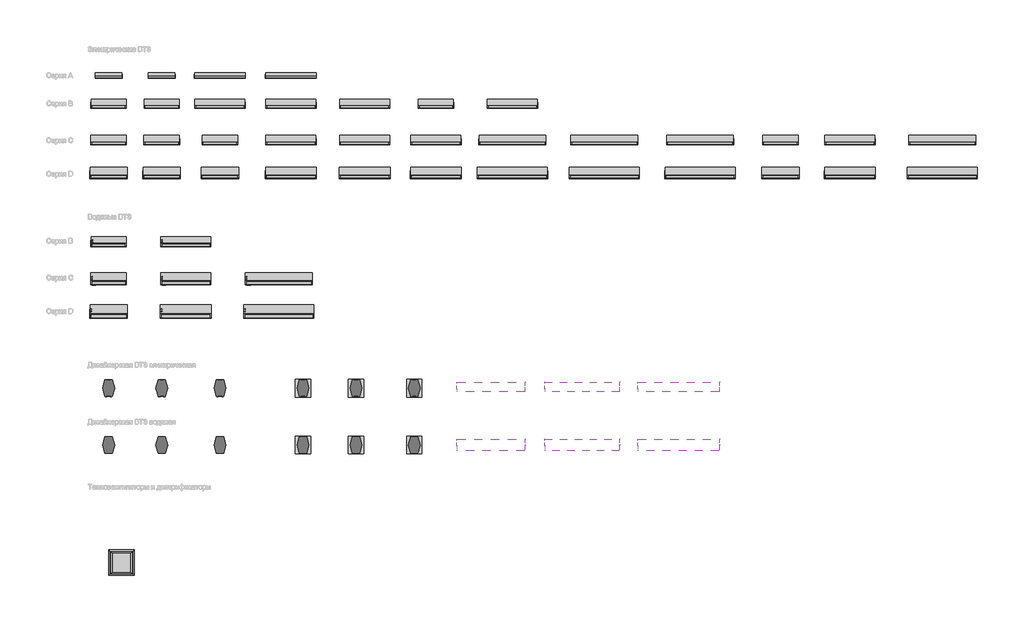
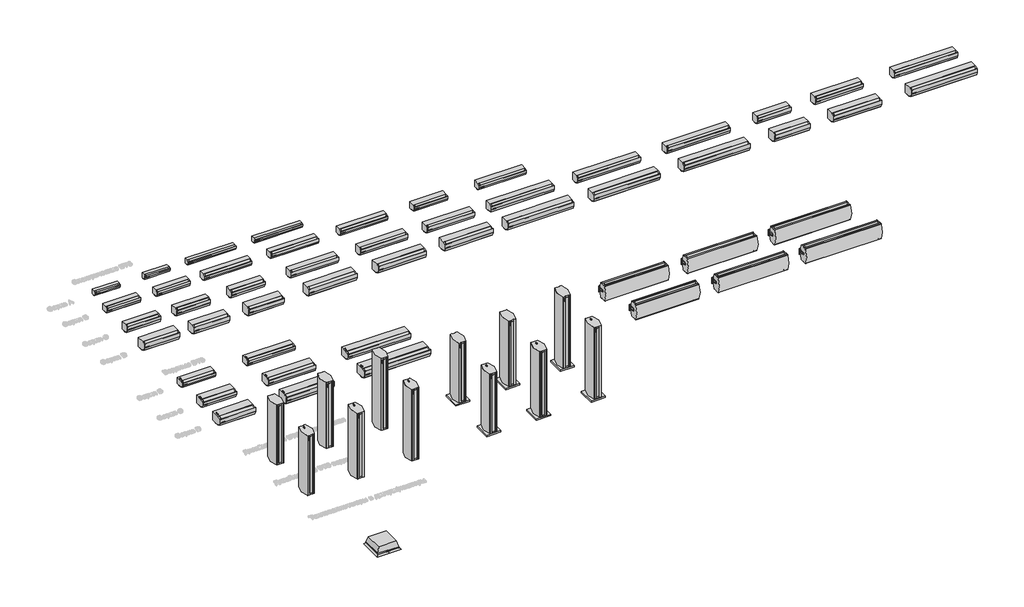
# One storey, part 1 of 6: 62 proxies.
"""IFC4 building model written with IfcOpenShell, lengths in millimetres."""

from ifc_helpers import new_model, si_unit, origin, place, context, project, spatial, transform, mapped, element, save
from components import mechanical_equipment_9118009e, mechanical_equipment_6979c24a, mechanical_equipment_54d49482, mechanical_equipment_cf9eca2f, mechanical_equipment_031cc24c, mechanical_equipment_d82694fb, mechanical_equipment_9d049b99, mechanical_equipment_add983ee, mechanical_equipment_00a1be9c, mechanical_equipment_44363e42, mechanical_equipment_baf8c299, mechanical_equipment_bb79ffea, mechanical_equipment_50f86838, mechanical_equipment_3402af0e, mechanical_equipment_5d67843a, mechanical_equipment_067d93a8, mechanical_equipment_b95bc2a5, mechanical_equipment_7584899c, mechanical_equipment_d3ca2cf4, mechanical_equipment_8353c0a6, mechanical_equipment_543ff3b5, mechanical_equipment_aabc1666, mechanical_equipment_894f7229, mechanical_equipment_7947e5b6, mechanical_equipment_0e06450b, mechanical_equipment_2aded307, mechanical_equipment_84d2b772, mechanical_equipment_74a944ee, mechanical_equipment_6c2af282, mechanical_equipment_045b932d, mechanical_equipment_433b3347, mechanical_equipment_313d402d, mechanical_equipment_6004fcc8, mechanical_equipment_da6643d4, mechanical_equipment_ca8eee42, mechanical_equipment_3b4bcd0b, mechanical_equipment_2b375cc0

model = new_model("IFC4")

# Units and contexts
model_context = context("Model", 3, world=origin())
ifc_project = project(units=[si_unit("LENGTHUNIT", "METRE", prefix="MILLI")], contexts=[model_context])

# Site, building, storey
site = spatial("IfcSite", under=ifc_project)
building = spatial("IfcBuilding", under=site)
storey = spatial("IfcBuildingStorey", under=building, Name="Уровень 1", Elevation=0.0)

# Proxies
placement = place(None, origin())
mechanical_equipment_shape = mechanical_equipment_9118009e(model_context)
element("IfcBuildingElementProxy", 1, Name="ADSK_Завеса_Электрическая : KVC-A08E3-11", ObjectType="ADSK_Завеса_Электрическая : KVC-A08E3-11", at=placement, inside=storey, context=model_context, shape_type="MappedRepresentation", body=[
    mapped(mechanical_equipment_shape, transform((-13137.6437819, 7442.4164287, 0.0), x_axis=(1.0, 0.0, 0.0), y_axis=(0.0, 1.0, 0.0), z_axis=(0.0, 0.0, 1.0))),
])
element("IfcBuildingElementProxy", 2, Name="ADSK_Завеса_Электрическая : KVC-A08E5-11", ObjectType="ADSK_Завеса_Электрическая : KVC-A08E5-11", at=placement, inside=storey, context=model_context, shape_type="MappedRepresentation", body=[
    mapped(mechanical_equipment_shape, transform((-11554.7644782, 7442.4164287, 0.0), x_axis=(1.0, 0.0, 0.0), y_axis=(0.0, 1.0, 0.0), z_axis=(0.0, 0.0, 1.0))),
])
mechanical_equipment_2_shape = mechanical_equipment_6979c24a(model_context)
element("IfcBuildingElementProxy", 3, Name="ADSK_Завеса_Электрическая : KVC-A15E6-11", ObjectType="ADSK_Завеса_Электрическая : KVC-A15E6-11", at=placement, inside=storey, context=model_context, shape_type="MappedRepresentation", body=[
    mapped(mechanical_equipment_2_shape, transform((-9817.6331313, 7442.4164287, 0.0), x_axis=(1.0, 0.0, 0.0), y_axis=(0.0, 1.0, 0.0), z_axis=(0.0, 0.0, 1.0))),
])
element("IfcBuildingElementProxy", 4, Name="ADSK_Завеса_Электрическая : KVC-A15E9-31", ObjectType="ADSK_Завеса_Электрическая : KVC-A15E9-31", at=placement, inside=storey, context=model_context, shape_type="MappedRepresentation", body=[
    mapped(mechanical_equipment_2_shape, transform((-7698.800967, 7442.4164287, 0.0), x_axis=(1.0, 0.0, 0.0), y_axis=(0.0, 1.0, 0.0), z_axis=(0.0, 0.0, 1.0))),
])
mechanical_equipment_3_shape = mechanical_equipment_54d49482(model_context)
element("IfcBuildingElementProxy", 5, Name="ADSK_Завеса_Электрическая : KVC-B10E6-01", ObjectType="ADSK_Завеса_Электрическая : KVC-B10E6-01", at=placement, inside=storey, context=model_context, shape_type="MappedRepresentation", body=[
    mapped(mechanical_equipment_3_shape, transform((-13137.6437819, 6642.4164287, 0.0), x_axis=(1.0, 0.0, 0.0), y_axis=(0.0, 1.0, 0.0), z_axis=(0.0, 0.0, 1.0))),
])
element("IfcBuildingElementProxy", 6, Name="ADSK_Завеса_Электрическая : KVC-B10E9-31", ObjectType="ADSK_Завеса_Электрическая : KVC-B10E9-31", at=placement, inside=storey, context=model_context, shape_type="MappedRepresentation", body=[
    mapped(mechanical_equipment_3_shape, transform((-11554.7644782, 6642.4164287, 0.0), x_axis=(1.0, 0.0, 0.0), y_axis=(0.0, 1.0, 0.0), z_axis=(0.0, 0.0, 1.0))),
])
mechanical_equipment_4_shape = mechanical_equipment_cf9eca2f(model_context)
element("IfcBuildingElementProxy", 7, Name="ADSK_Завеса_Электрическая : KVC-B15E6-01", ObjectType="ADSK_Завеса_Электрическая : KVC-B15E6-01", at=placement, inside=storey, context=model_context, shape_type="MappedRepresentation", body=[
    mapped(mechanical_equipment_4_shape, transform((-9817.6331313, 6642.4164287, 0.0), x_axis=(1.0, 0.0, 0.0), y_axis=(0.0, 1.0, 0.0), z_axis=(0.0, 0.0, 1.0))),
])
element("IfcBuildingElementProxy", 8, Name="ADSK_Завеса_Электрическая : KVC-B15E9-31", ObjectType="ADSK_Завеса_Электрическая : KVC-B15E9-31", at=placement, inside=storey, context=model_context, shape_type="MappedRepresentation", body=[
    mapped(mechanical_equipment_4_shape, transform((-7698.800967, 6642.4164287, 0.0), x_axis=(1.0, 0.0, 0.0), y_axis=(0.0, 1.0, 0.0), z_axis=(0.0, 0.0, 1.0))),
])
element("IfcBuildingElementProxy", 9, Name="ADSK_Завеса_Электрическая : KVC-B15E12-31", ObjectType="ADSK_Завеса_Электрическая : KVC-B15E12-31", at=placement, inside=storey, context=model_context, shape_type="MappedRepresentation", body=[
    mapped(mechanical_equipment_4_shape, transform((-5496.1360594, 6642.4164287, 0.0), x_axis=(1.0, 0.0, 0.0), y_axis=(0.0, 1.0, 0.0), z_axis=(0.0, 0.0, 1.0))),
])
element("IfcBuildingElementProxy", 10, Name="ADSK_Завеса_Электрическая : KVC-B10V-11", ObjectType="ADSK_Завеса_Электрическая : KVC-B10V-11", at=placement, inside=storey, context=model_context, shape_type="MappedRepresentation", body=[
    mapped(mechanical_equipment_3_shape, transform((-3371.4397714, 6642.4164287, 0.0), x_axis=(1.0, 0.0, 0.0), y_axis=(0.0, 1.0, 0.0), z_axis=(0.0, 0.0, 1.0))),
])
element("IfcBuildingElementProxy", 11, Name="ADSK_Завеса_Электрическая : KVC-B15V-11", ObjectType="ADSK_Завеса_Электрическая : KVC-B15V-11", at=placement, inside=storey, context=model_context, shape_type="MappedRepresentation", body=[
    mapped(mechanical_equipment_4_shape, transform((-1088.5604677, 6642.4164287, 0.0), x_axis=(1.0, 0.0, 0.0), y_axis=(0.0, 1.0, 0.0), z_axis=(0.0, 0.0, 1.0))),
])
mechanical_equipment_5_shape = mechanical_equipment_031cc24c(model_context)
element("IfcBuildingElementProxy", 12, Name="ADSK_Завеса_Электрическая : KVC-C10E6-01", ObjectType="ADSK_Завеса_Электрическая : KVC-C10E6-01", at=placement, inside=storey, context=model_context, shape_type="MappedRepresentation", body=[
    mapped(mechanical_equipment_5_shape, transform((-13137.6437819, 5569.468326, 0.0), x_axis=(1.0, 0.0, 0.0), y_axis=(0.0, 1.0, 0.0), z_axis=(0.0, 0.0, 1.0))),
])
element("IfcBuildingElementProxy", 13, Name="ADSK_Завеса_Электрическая : KVC-C10E9-31", ObjectType="ADSK_Завеса_Электрическая : KVC-C10E9-31", at=placement, inside=storey, context=model_context, shape_type="MappedRepresentation", body=[
    mapped(mechanical_equipment_5_shape, transform((-11554.7644782, 5569.468326, 0.0), x_axis=(1.0, 0.0, 0.0), y_axis=(0.0, 1.0, 0.0), z_axis=(0.0, 0.0, 1.0))),
])
element("IfcBuildingElementProxy", 14, Name="ADSK_Завеса_Электрическая : KVC-C10E12-31", ObjectType="ADSK_Завеса_Электрическая : KVC-C10E12-31", at=placement, inside=storey, context=model_context, shape_type="MappedRepresentation", body=[
    mapped(mechanical_equipment_5_shape, transform((-9817.6331313, 5569.468326, 0.0), x_axis=(1.0, 0.0, 0.0), y_axis=(0.0, 1.0, 0.0), z_axis=(0.0, 0.0, 1.0))),
])
mechanical_equipment_6_shape = mechanical_equipment_d82694fb(model_context)
element("IfcBuildingElementProxy", 15, Name="ADSK_Завеса_Электрическая : KVC-C15E9-31", ObjectType="ADSK_Завеса_Электрическая : KVC-C15E9-31", at=placement, inside=storey, context=model_context, shape_type="MappedRepresentation", body=[
    mapped(mechanical_equipment_6_shape, transform((-7698.800967, 5569.468326, 0.0), x_axis=(1.0, 0.0, 0.0), y_axis=(0.0, 1.0, 0.0), z_axis=(0.0, 0.0, 1.0))),
])
element("IfcBuildingElementProxy", 16, Name="ADSK_Завеса_Электрическая : KVC-C15E12-31", ObjectType="ADSK_Завеса_Электрическая : KVC-C15E12-31", at=placement, inside=storey, context=model_context, shape_type="MappedRepresentation", body=[
    mapped(mechanical_equipment_6_shape, transform((-5496.1360594, 5569.468326, 0.0), x_axis=(1.0, 0.0, 0.0), y_axis=(0.0, 1.0, 0.0), z_axis=(0.0, 0.0, 1.0))),
])
element("IfcBuildingElementProxy", 17, Name="ADSK_Завеса_Электрическая : KVC-C15E15-31", ObjectType="ADSK_Завеса_Электрическая : KVC-C15E15-31", at=placement, inside=storey, context=model_context, shape_type="MappedRepresentation", body=[
    mapped(mechanical_equipment_6_shape, transform((-3371.4397714, 5569.468326, 0.0), x_axis=(1.0, 0.0, 0.0), y_axis=(0.0, 1.0, 0.0), z_axis=(0.0, 0.0, 1.0))),
])
mechanical_equipment_7_shape = mechanical_equipment_9d049b99(model_context)
element("IfcBuildingElementProxy", 18, Name="ADSK_Завеса_Электрическая : KVC-C20E12-31", ObjectType="ADSK_Завеса_Электрическая : KVC-C20E12-31", at=placement, inside=storey, context=model_context, shape_type="MappedRepresentation", body=[
    mapped(mechanical_equipment_7_shape, transform((-1088.5604677, 5569.468326, 0.0), x_axis=(1.0, 0.0, 0.0), y_axis=(0.0, 1.0, 0.0), z_axis=(0.0, 0.0, 1.0))),
])
element("IfcBuildingElementProxy", 19, Name="ADSK_Завеса_Электрическая : KVC-C20E18-31", ObjectType="ADSK_Завеса_Электрическая : KVC-C20E18-31", at=placement, inside=storey, context=model_context, shape_type="MappedRepresentation", body=[
    mapped(mechanical_equipment_7_shape, transform((1655.9852388, 5569.468326, 0.0), x_axis=(1.0, 0.0, 0.0), y_axis=(0.0, 1.0, 0.0), z_axis=(0.0, 0.0, 1.0))),
])
element("IfcBuildingElementProxy", 20, Name="ADSK_Завеса_Электрическая : KVC-C20E24-31", ObjectType="ADSK_Завеса_Электрическая : KVC-C20E24-31", at=placement, inside=storey, context=model_context, shape_type="MappedRepresentation", body=[
    mapped(mechanical_equipment_7_shape, transform((4512.164507, 5569.468326, 0.0), x_axis=(1.0, 0.0, 0.0), y_axis=(0.0, 1.0, 0.0), z_axis=(0.0, 0.0, 1.0))),
])
element("IfcBuildingElementProxy", 21, Name="ADSK_Завеса_Электрическая : KVC-C10V-11", ObjectType="ADSK_Завеса_Электрическая : KVC-C10V-11", at=placement, inside=storey, context=model_context, shape_type="MappedRepresentation", body=[
    mapped(mechanical_equipment_5_shape, transform((6911.5475632, 5569.468326, 0.0), x_axis=(1.0, 0.0, 0.0), y_axis=(0.0, 1.0, 0.0), z_axis=(0.0, 0.0, 1.0))),
])
element("IfcBuildingElementProxy", 22, Name="ADSK_Завеса_Электрическая : KVC-C15V-11", ObjectType="ADSK_Завеса_Электрическая : KVC-C15V-11", at=placement, inside=storey, context=model_context, shape_type="MappedRepresentation", body=[
    mapped(mechanical_equipment_6_shape, transform((8983.0753852, 5569.468326, 0.0), x_axis=(1.0, 0.0, 0.0), y_axis=(0.0, 1.0, 0.0), z_axis=(0.0, 0.0, 1.0))),
])
element("IfcBuildingElementProxy", 23, Name="ADSK_Завеса_Электрическая : KVC-C20V-11", ObjectType="ADSK_Завеса_Электрическая : KVC-C20V-11", at=placement, inside=storey, context=model_context, shape_type="MappedRepresentation", body=[
    mapped(mechanical_equipment_7_shape, transform((11742.0965269, 5569.468326, 0.0), x_axis=(1.0, 0.0, 0.0), y_axis=(0.0, 1.0, 0.0), z_axis=(0.0, 0.0, 1.0))),
])
mechanical_equipment_8_shape = mechanical_equipment_add983ee(model_context)
element("IfcBuildingElementProxy", 24, Name="ADSK_Завеса_Электрическая : KVC-D10E9-31", ObjectType="ADSK_Завеса_Электрическая : KVC-D10E9-31", at=placement, inside=storey, context=model_context, shape_type="MappedRepresentation", body=[
    mapped(mechanical_equipment_8_shape, transform((-13137.6437819, 4620.2862411, 0.0), x_axis=(1.0, 0.0, 0.0), y_axis=(0.0, 1.0, 0.0), z_axis=(0.0, 0.0, 1.0))),
])
element("IfcBuildingElementProxy", 25, Name="ADSK_Завеса_Электрическая : KVC-D10E12-31", ObjectType="ADSK_Завеса_Электрическая : KVC-D10E12-31", at=placement, inside=storey, context=model_context, shape_type="MappedRepresentation", body=[
    mapped(mechanical_equipment_8_shape, transform((-11554.7644782, 4620.2862411, 0.0), x_axis=(1.0, 0.0, 0.0), y_axis=(0.0, 1.0, 0.0), z_axis=(0.0, 0.0, 1.0))),
])
element("IfcBuildingElementProxy", 26, Name="ADSK_Завеса_Электрическая : KVC-D10E18-31", ObjectType="ADSK_Завеса_Электрическая : KVC-D10E18-31", at=placement, inside=storey, context=model_context, shape_type="MappedRepresentation", body=[
    mapped(mechanical_equipment_8_shape, transform((-9817.6331313, 4620.2862411, 0.0), x_axis=(1.0, 0.0, 0.0), y_axis=(0.0, 1.0, 0.0), z_axis=(0.0, 0.0, 1.0))),
])
mechanical_equipment_9_shape = mechanical_equipment_00a1be9c(model_context)
element("IfcBuildingElementProxy", 27, Name="ADSK_Завеса_Электрическая : KVC-D15E12-31", ObjectType="ADSK_Завеса_Электрическая : KVC-D15E12-31", at=placement, inside=storey, context=model_context, shape_type="MappedRepresentation", body=[
    mapped(mechanical_equipment_9_shape, transform((-7698.800967, 4620.2862411, 0.0), x_axis=(1.0, 0.0, 0.0), y_axis=(0.0, 1.0, 0.0), z_axis=(0.0, 0.0, 1.0))),
])
element("IfcBuildingElementProxy", 28, Name="ADSK_Завеса_Электрическая : KVC-D15E18-31", ObjectType="ADSK_Завеса_Электрическая : KVC-D15E18-31", at=placement, inside=storey, context=model_context, shape_type="MappedRepresentation", body=[
    mapped(mechanical_equipment_9_shape, transform((-5496.1360594, 4620.2862411, 0.0), x_axis=(1.0, 0.0, 0.0), y_axis=(0.0, 1.0, 0.0), z_axis=(0.0, 0.0, 1.0))),
])
element("IfcBuildingElementProxy", 29, Name="ADSK_Завеса_Электрическая : KVC-D15E24-31", ObjectType="ADSK_Завеса_Электрическая : KVC-D15E24-31", at=placement, inside=storey, context=model_context, shape_type="MappedRepresentation", body=[
    mapped(mechanical_equipment_9_shape, transform((-3371.4397714, 4620.2862411, 0.0), x_axis=(1.0, 0.0, 0.0), y_axis=(0.0, 1.0, 0.0), z_axis=(0.0, 0.0, 1.0))),
])
mechanical_equipment_10_shape = mechanical_equipment_44363e42(model_context)
element("IfcBuildingElementProxy", 30, Name="ADSK_Завеса_Электрическая : KVC-D20E18-31", ObjectType="ADSK_Завеса_Электрическая : KVC-D20E18-31", at=placement, inside=storey, context=model_context, shape_type="MappedRepresentation", body=[
    mapped(mechanical_equipment_10_shape, transform((-1088.5604677, 4620.2862411, 0.0), x_axis=(1.0, 0.0, 0.0), y_axis=(0.0, 1.0, 0.0), z_axis=(0.0, 0.0, 1.0))),
])
element("IfcBuildingElementProxy", 31, Name="ADSK_Завеса_Электрическая : KVC-D20E24-31", ObjectType="ADSK_Завеса_Электрическая : KVC-D20E24-31", at=placement, inside=storey, context=model_context, shape_type="MappedRepresentation", body=[
    mapped(mechanical_equipment_10_shape, transform((1655.9852388, 4620.2862411, 0.0), x_axis=(1.0, 0.0, 0.0), y_axis=(0.0, 1.0, 0.0), z_axis=(0.0, 0.0, 1.0))),
])
element("IfcBuildingElementProxy", 32, Name="ADSK_Завеса_Электрическая : KVC-D20E36-31", ObjectType="ADSK_Завеса_Электрическая : KVC-D20E36-31", at=placement, inside=storey, context=model_context, shape_type="MappedRepresentation", body=[
    mapped(mechanical_equipment_10_shape, transform((4512.164507, 4620.2862411, 0.0), x_axis=(1.0, 0.0, 0.0), y_axis=(0.0, 1.0, 0.0), z_axis=(0.0, 0.0, 1.0))),
])
element("IfcBuildingElementProxy", 33, Name="ADSK_Завеса_Электрическая : KVC-D10V-11", ObjectType="ADSK_Завеса_Электрическая : KVC-D10V-11", at=placement, inside=storey, context=model_context, shape_type="MappedRepresentation", body=[
    mapped(mechanical_equipment_8_shape, transform((6911.5475632, 4620.2862411, 0.0), x_axis=(1.0, 0.0, 0.0), y_axis=(0.0, 1.0, 0.0), z_axis=(0.0, 0.0, 1.0))),
])
element("IfcBuildingElementProxy", 34, Name="ADSK_Завеса_Электрическая : KVC-D15V-11", ObjectType="ADSK_Завеса_Электрическая : KVC-D15V-11", at=placement, inside=storey, context=model_context, shape_type="MappedRepresentation", body=[
    mapped(mechanical_equipment_9_shape, transform((8983.0753852, 4620.2862411, 0.0), x_axis=(1.0, 0.0, 0.0), y_axis=(0.0, 1.0, 0.0), z_axis=(0.0, 0.0, 1.0))),
])
element("IfcBuildingElementProxy", 35, Name="ADSK_Завеса_Электрическая : KVC-D20V-11", ObjectType="ADSK_Завеса_Электрическая : KVC-D20V-11", at=placement, inside=storey, context=model_context, shape_type="MappedRepresentation", body=[
    mapped(mechanical_equipment_10_shape, transform((11742.0965269, 4620.2862411, 0.0), x_axis=(1.0, 0.0, 0.0), y_axis=(0.0, 1.0, 0.0), z_axis=(0.0, 0.0, 1.0))),
])
mechanical_equipment_11_shape = mechanical_equipment_baf8c299(model_context)
element("IfcBuildingElementProxy", 36, Name="ADSK_Завеса_Водяная : KVC-B15W14-11", ObjectType="ADSK_Завеса_Водяная : KVC-B15W14-11", at=placement, inside=storey, context=model_context, shape_type="MappedRepresentation", body=[
    mapped(mechanical_equipment_11_shape, transform((-10834.7644782, 2542.4164287, 0.0), x_axis=(1.0, 0.0, 0.0), y_axis=(0.0, 1.0, 0.0), z_axis=(0.0, 0.0, 1.0))),
])
mechanical_equipment_12_shape = mechanical_equipment_bb79ffea(model_context)
element("IfcBuildingElementProxy", 37, Name="ADSK_Завеса_Водяная : KVC-B10W8-11", ObjectType="ADSK_Завеса_Водяная : KVC-B10W8-11", at=placement, inside=storey, context=model_context, shape_type="MappedRepresentation", body=[
    mapped(mechanical_equipment_12_shape, transform((-13137.6437819, 2542.4164287, 0.0), x_axis=(1.0, 0.0, 0.0), y_axis=(0.0, 1.0, 0.0), z_axis=(0.0, 0.0, 1.0))),
])
mechanical_equipment_13_shape = mechanical_equipment_50f86838(model_context)
element("IfcBuildingElementProxy", 38, Name="ADSK_Завеса_Водяная : KVC-D20W50-11", ObjectType="ADSK_Завеса_Водяная : KVC-D20W50-11", at=placement, inside=storey, context=model_context, shape_type="MappedRepresentation", body=[
    mapped(mechanical_equipment_13_shape, transform((-8058.800967, 520.2862411, 0.0), x_axis=(1.0, 0.0, 0.0), y_axis=(0.0, 1.0, 0.0), z_axis=(0.0, 0.0, 1.0))),
])
mechanical_equipment_14_shape = mechanical_equipment_3402af0e(model_context)
element("IfcBuildingElementProxy", 39, Name="ADSK_Завеса_Водяная : KVC-D15W33-11", ObjectType="ADSK_Завеса_Водяная : KVC-D15W33-11", at=placement, inside=storey, context=model_context, shape_type="MappedRepresentation", body=[
    mapped(mechanical_equipment_14_shape, transform((-10834.7644782, 520.2862411, 0.0), x_axis=(1.0, 0.0, 0.0), y_axis=(0.0, 1.0, 0.0), z_axis=(0.0, 0.0, 1.0))),
])
mechanical_equipment_15_shape = mechanical_equipment_5d67843a(model_context)
element("IfcBuildingElementProxy", 40, Name="ADSK_Завеса_Водяная : KVC-D10W20-11", ObjectType="ADSK_Завеса_Водяная : KVC-D10W20-11", at=placement, inside=storey, context=model_context, shape_type="MappedRepresentation", body=[
    mapped(mechanical_equipment_15_shape, transform((-13137.6437819, 520.2862411, 0.0), x_axis=(1.0, 0.0, 0.0), y_axis=(0.0, 1.0, 0.0), z_axis=(0.0, 0.0, 1.0))),
])
mechanical_equipment_16_shape = mechanical_equipment_067d93a8(model_context)
element("IfcBuildingElementProxy", 41, Name="ADSK_Завеса_Водяная : KVC-C20W30-11", ObjectType="ADSK_Завеса_Водяная : KVC-C20W30-11", at=placement, inside=storey, context=model_context, shape_type="MappedRepresentation", body=[
    mapped(mechanical_equipment_16_shape, transform((-8058.800967, 1469.468326, 0.0), x_axis=(1.0, 0.0, 0.0), y_axis=(0.0, 1.0, 0.0), z_axis=(0.0, 0.0, 1.0))),
])
mechanical_equipment_17_shape = mechanical_equipment_b95bc2a5(model_context)
element("IfcBuildingElementProxy", 42, Name="ADSK_Завеса_Водяная : KVC-C15W20-11", ObjectType="ADSK_Завеса_Водяная : KVC-C15W20-11", at=placement, inside=storey, context=model_context, shape_type="MappedRepresentation", body=[
    mapped(mechanical_equipment_17_shape, transform((-10834.7644782, 1469.468326, 0.0), x_axis=(1.0, 0.0, 0.0), y_axis=(0.0, 1.0, 0.0), z_axis=(0.0, 0.0, 1.0))),
])
mechanical_equipment_18_shape = mechanical_equipment_7584899c(model_context)
element("IfcBuildingElementProxy", 43, Name="ADSK_Завеса_Водяная : KVC-C10W12-11", ObjectType="ADSK_Завеса_Водяная : KVC-C10W12-11", at=placement, inside=storey, context=model_context, shape_type="MappedRepresentation", body=[
    mapped(mechanical_equipment_18_shape, transform((-13137.6437819, 1469.468326, 0.0), x_axis=(1.0, 0.0, 0.0), y_axis=(0.0, 1.0, 0.0), z_axis=(0.0, 0.0, 1.0))),
])
mechanical_equipment_19_shape = mechanical_equipment_d3ca2cf4(model_context)
element("IfcBuildingElementProxy", 44, Name="ADSK_Завеса дизайнерская_Водяная : KVC-S25W45-31", ObjectType="ADSK_Завеса дизайнерская_Водяная : KVC-S25W45-31", at=placement, inside=storey, context=model_context, shape_type="MappedRepresentation", body=[
    mapped(mechanical_equipment_19_shape, transform((2662.8668687, -3674.7103504, 2400.0), x_axis=(0.0, 1.0000000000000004, 0.0), y_axis=(0.0, 0.0, 1.0000000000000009), z_axis=(1.0000000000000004, 0.0, 0.0))),
])
mechanical_equipment_20_shape = mechanical_equipment_8353c0a6(model_context)
element("IfcBuildingElementProxy", 45, Name="ADSK_Завеса дизайнерская_Водяная : KVC-S22W35-31", ObjectType="ADSK_Завеса дизайнерская_Водяная : KVC-S22W35-31", at=placement, inside=storey, context=model_context, shape_type="MappedRepresentation", body=[
    mapped(mechanical_equipment_20_shape, transform((-114.2644782, -3674.7103504, 2400.0), x_axis=(0.0, 1.0000000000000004, 0.0), y_axis=(0.0, 0.0, 1.0000000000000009), z_axis=(1.0000000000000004, 0.0, 0.0))),
])
mechanical_equipment_21_shape = mechanical_equipment_543ff3b5(model_context)
element("IfcBuildingElementProxy", 46, Name="ADSK_Завеса дизайнерская_Водяная : KVC-S20W35-31", ObjectType="ADSK_Завеса дизайнерская_Водяная : KVC-S20W35-31", at=placement, inside=storey, context=model_context, shape_type="MappedRepresentation", body=[
    mapped(mechanical_equipment_21_shape, transform((-2737.1437819, -3674.7103504, 2400.0), x_axis=(0.0, 1.0000000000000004, 0.0), y_axis=(0.0, 0.0, 1.0000000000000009), z_axis=(1.0000000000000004, 0.0, 0.0))),
])
mechanical_equipment_22_shape = mechanical_equipment_aabc1666(model_context)
element("IfcBuildingElementProxy", 47, Name="ADSK_Дестратификатор_Электрический : KVF-V-11", ObjectType="ADSK_Дестратификатор_Электрический : KVF-V-11", at=placement, inside=storey, context=model_context, shape_type="MappedRepresentation", body=[
    mapped(mechanical_equipment_22_shape, transform((-12753.7328788, -7184.1629479, 0.0), x_axis=(1.0, 0.0, 0.0), y_axis=(0.0, 1.0, 0.0), z_axis=(0.0, 0.0, 1.0))),
])
mechanical_equipment_23_shape = mechanical_equipment_894f7229(model_context)
element("IfcBuildingElementProxy", 48, Name="ADSK_Завеса дизайнерская_Электрическая : KVC-S20E18-31", ObjectType="ADSK_Завеса дизайнерская_Электрическая : KVC-S20E18-31", at=placement, inside=storey, context=model_context, shape_type="MappedRepresentation", body=[
    mapped(mechanical_equipment_23_shape, transform((-13137.6437819, -1974.7103504, 0.0), x_axis=(1.0, 0.0, 0.0), y_axis=(0.0, 1.0, 0.0), z_axis=(0.0, 0.0, 1.0))),
])
mechanical_equipment_24_shape = mechanical_equipment_7947e5b6(model_context)
element("IfcBuildingElementProxy", 49, Name="ADSK_Завеса дизайнерская_Электрическая : KVC-S22E18-31", ObjectType="ADSK_Завеса дизайнерская_Электрическая : KVC-S22E18-31", at=placement, inside=storey, context=model_context, shape_type="MappedRepresentation", body=[
    mapped(mechanical_equipment_24_shape, transform((-11554.7644782, -1974.7103504, 0.0), x_axis=(1.0, 0.0, 0.0), y_axis=(0.0, 1.0, 0.0), z_axis=(0.0, 0.0, 1.0))),
])
mechanical_equipment_25_shape = mechanical_equipment_0e06450b(model_context)
element("IfcBuildingElementProxy", 50, Name="ADSK_Завеса дизайнерская_Электрическая : KVC-S25E24-31", ObjectType="ADSK_Завеса дизайнерская_Электрическая : KVC-S25E24-31", at=placement, inside=storey, context=model_context, shape_type="MappedRepresentation", body=[
    mapped(mechanical_equipment_25_shape, transform((-9817.6331313, -1974.7103504, 0.0), x_axis=(1.0, 0.0, 0.0), y_axis=(0.0, 1.0, 0.0), z_axis=(0.0, 0.0, 1.0))),
])
mechanical_equipment_26_shape = mechanical_equipment_2aded307(model_context)
element("IfcBuildingElementProxy", 51, Name="ADSK_Завеса дизайнерская_Электрическая : KVC-S20E18-31", ObjectType="ADSK_Завеса дизайнерская_Электрическая : KVC-S20E18-31", at=placement, inside=storey, context=model_context, shape_type="MappedRepresentation", body=[
    mapped(mechanical_equipment_26_shape, transform((-7337.6437819, -1974.7103504, 0.0), x_axis=(1.0, 0.0, 0.0), y_axis=(0.0, 1.0, 0.0), z_axis=(0.0, 0.0, 1.0))),
])
mechanical_equipment_27_shape = mechanical_equipment_84d2b772(model_context)
element("IfcBuildingElementProxy", 52, Name="ADSK_Завеса дизайнерская_Электрическая : KVC-S22E18-31", ObjectType="ADSK_Завеса дизайнерская_Электрическая : KVC-S22E18-31", at=placement, inside=storey, context=model_context, shape_type="MappedRepresentation", body=[
    mapped(mechanical_equipment_27_shape, transform((-5754.7644782, -1974.7103504, 0.0), x_axis=(1.0, 0.0, 0.0), y_axis=(0.0, 1.0, 0.0), z_axis=(0.0, 0.0, 1.0))),
])
mechanical_equipment_28_shape = mechanical_equipment_74a944ee(model_context)
element("IfcBuildingElementProxy", 53, Name="ADSK_Завеса дизайнерская_Электрическая : KVC-S25E24-31", ObjectType="ADSK_Завеса дизайнерская_Электрическая : KVC-S25E24-31", at=placement, inside=storey, context=model_context, shape_type="MappedRepresentation", body=[
    mapped(mechanical_equipment_28_shape, transform((-4017.6331313, -1974.7103504, 0.0), x_axis=(1.0, 0.0, 0.0), y_axis=(0.0, 1.0, 0.0), z_axis=(0.0, 0.0, 1.0))),
])
mechanical_equipment_29_shape = mechanical_equipment_6c2af282(model_context)
element("IfcBuildingElementProxy", 54, Name="ADSK_Завеса дизайнерская_Электрическая : KVC-S20E18-31", ObjectType="ADSK_Завеса дизайнерская_Электрическая : KVC-S20E18-31", at=placement, inside=storey, context=model_context, shape_type="MappedRepresentation", body=[
    mapped(mechanical_equipment_29_shape, transform((-2737.1437819, -1974.7103504, 2000.0), x_axis=(0.0, 1.0000000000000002, 0.0), y_axis=(0.0, 0.0, 1.0000000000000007), z_axis=(1.0000000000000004, 0.0, 0.0))),
])
mechanical_equipment_30_shape = mechanical_equipment_045b932d(model_context)
element("IfcBuildingElementProxy", 55, Name="ADSK_Завеса дизайнерская_Электрическая : KVC-S22E18-31", ObjectType="ADSK_Завеса дизайнерская_Электрическая : KVC-S22E18-31", at=placement, inside=storey, context=model_context, shape_type="MappedRepresentation", body=[
    mapped(mechanical_equipment_30_shape, transform((-114.2644782, -1974.7103504, 2000.0), x_axis=(0.0, 1.0000000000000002, 0.0), y_axis=(0.0, 0.0, 1.0000000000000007), z_axis=(1.0000000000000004, 0.0, 0.0))),
])
mechanical_equipment_31_shape = mechanical_equipment_433b3347(model_context)
element("IfcBuildingElementProxy", 56, Name="ADSK_Завеса дизайнерская_Электрическая : KVC-S25E24-31", ObjectType="ADSK_Завеса дизайнерская_Электрическая : KVC-S25E24-31", at=placement, inside=storey, context=model_context, shape_type="MappedRepresentation", body=[
    mapped(mechanical_equipment_31_shape, transform((2662.8668687, -1974.7103504, 2000.0), x_axis=(0.0, 1.0000000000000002, 0.0), y_axis=(0.0, 0.0, 1.0000000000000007), z_axis=(1.0000000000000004, 0.0, 0.0))),
])
mechanical_equipment_32_shape = mechanical_equipment_313d402d(model_context)
element("IfcBuildingElementProxy", 57, Name="ADSK_Завеса дизайнерская_Водяная : KVC-S20W35-31", ObjectType="ADSK_Завеса дизайнерская_Водяная : KVC-S20W35-31", at=placement, inside=storey, context=model_context, shape_type="MappedRepresentation", body=[
    mapped(mechanical_equipment_32_shape, transform((-13137.6437819, -3674.7103504, 0.0), x_axis=(1.0, 0.0, 0.0), y_axis=(0.0, 1.0, 0.0), z_axis=(0.0, 0.0, 1.0))),
])
mechanical_equipment_33_shape = mechanical_equipment_6004fcc8(model_context)
element("IfcBuildingElementProxy", 58, Name="ADSK_Завеса дизайнерская_Водяная : KVC-S22W35-31", ObjectType="ADSK_Завеса дизайнерская_Водяная : KVC-S22W35-31", at=placement, inside=storey, context=model_context, shape_type="MappedRepresentation", body=[
    mapped(mechanical_equipment_33_shape, transform((-11554.7644782, -3674.7103504, 0.0), x_axis=(1.0, 0.0, 0.0), y_axis=(0.0, 1.0, 0.0), z_axis=(0.0, 0.0, 1.0))),
])
mechanical_equipment_34_shape = mechanical_equipment_da6643d4(model_context)
element("IfcBuildingElementProxy", 59, Name="ADSK_Завеса дизайнерская_Водяная : KVC-S25W45-31", ObjectType="ADSK_Завеса дизайнерская_Водяная : KVC-S25W45-31", at=placement, inside=storey, context=model_context, shape_type="MappedRepresentation", body=[
    mapped(mechanical_equipment_34_shape, transform((-9817.6331313, -3674.7103504, 0.0), x_axis=(1.0, 0.0, 0.0), y_axis=(0.0, 1.0, 0.0), z_axis=(0.0, 0.0, 1.0))),
])
mechanical_equipment_35_shape = mechanical_equipment_ca8eee42(model_context)
element("IfcBuildingElementProxy", 60, Name="ADSK_Завеса дизайнерская_Водяная : KVC-S20W35-31", ObjectType="ADSK_Завеса дизайнерская_Водяная : KVC-S20W35-31", at=placement, inside=storey, context=model_context, shape_type="MappedRepresentation", body=[
    mapped(mechanical_equipment_35_shape, transform((-7337.6437819, -3674.7103504, 0.0), x_axis=(1.0, 0.0, 0.0), y_axis=(0.0, 1.0, 0.0), z_axis=(0.0, 0.0, 1.0))),
])
mechanical_equipment_36_shape = mechanical_equipment_3b4bcd0b(model_context)
element("IfcBuildingElementProxy", 61, Name="ADSK_Завеса дизайнерская_Водяная : KVC-S22W35-31", ObjectType="ADSK_Завеса дизайнерская_Водяная : KVC-S22W35-31", at=placement, inside=storey, context=model_context, shape_type="MappedRepresentation", body=[
    mapped(mechanical_equipment_36_shape, transform((-5754.7644782, -3674.7103504, 0.0), x_axis=(1.0, 0.0, 0.0), y_axis=(0.0, 1.0, 0.0), z_axis=(0.0, 0.0, 1.0))),
])
mechanical_equipment_37_shape = mechanical_equipment_2b375cc0(model_context)
element("IfcBuildingElementProxy", 62, Name="ADSK_Завеса дизайнерская_Водяная : KVC-S25W45-31", ObjectType="ADSK_Завеса дизайнерская_Водяная : KVC-S25W45-31", at=placement, inside=storey, context=model_context, shape_type="MappedRepresentation", body=[
    mapped(mechanical_equipment_37_shape, transform((-4017.6331313, -3674.7103504, 0.0), x_axis=(1.0, 0.0, 0.0), y_axis=(0.0, 1.0, 0.0), z_axis=(0.0, 0.0, 1.0))),
])

save(model, "model.ifc")
